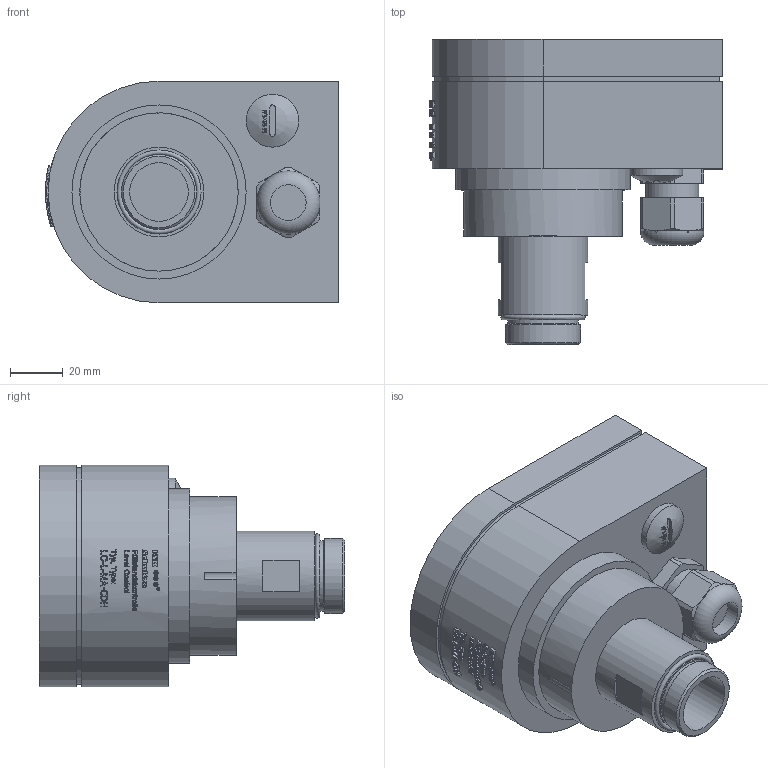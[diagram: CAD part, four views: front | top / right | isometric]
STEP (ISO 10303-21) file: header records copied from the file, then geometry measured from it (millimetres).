
FILE_DESCRIPTION(/* description */ (''),/* implementation_level */ '2;1');
FILE_NAME(/* name */ 'P:\ILC\LC-L-MA-CDH\LC-L-MA-CDH.stp',/* time_stamp */ '2020-06-05T12:51:52+02:00',/* author */ ('neufeld'),/* organization */ (''),/* preprocessor_version */ 'ST-DEVELOPER v17',/* originating_system */ 'Autodesk Inventor 2019',/* authorisation */ '');
FILE_SCHEMA (('AUTOMOTIVE_DESIGN { 1 0 10303 214 3 1 1 }'));
Products named in the file (1): LC-L-MA-CDH_AG-Kunde
Bounding box: 111 x 115.6 x 84 mm (x, y, z)
Volume: 532761.2 mm3; surface area: 49455.2 mm2
Topology: 2 solids, 3 shells, 1181 faces, 3208 edges, 2143 vertices
Faces by surface type: plane 693, bspline 372, cylinder 104, cone 9, torus 3
Full cylindrical faces by diameter (mm): 10.9 x1, 13.5 x1, 20 x2, 22.2 x1, 26.7 x1, 28.1 x1, 28.45 x1, 34 x1, 60 x1, 66 x1
Entity records: 49701 total; most frequent: CARTESIAN_POINT 21510, ORIENTED_EDGE 6408, DIRECTION 4820, EDGE_CURVE 3204, VERTEX_POINT 2135, AXIS2_PLACEMENT_3D 1627, LINE 1566, VECTOR 1566
